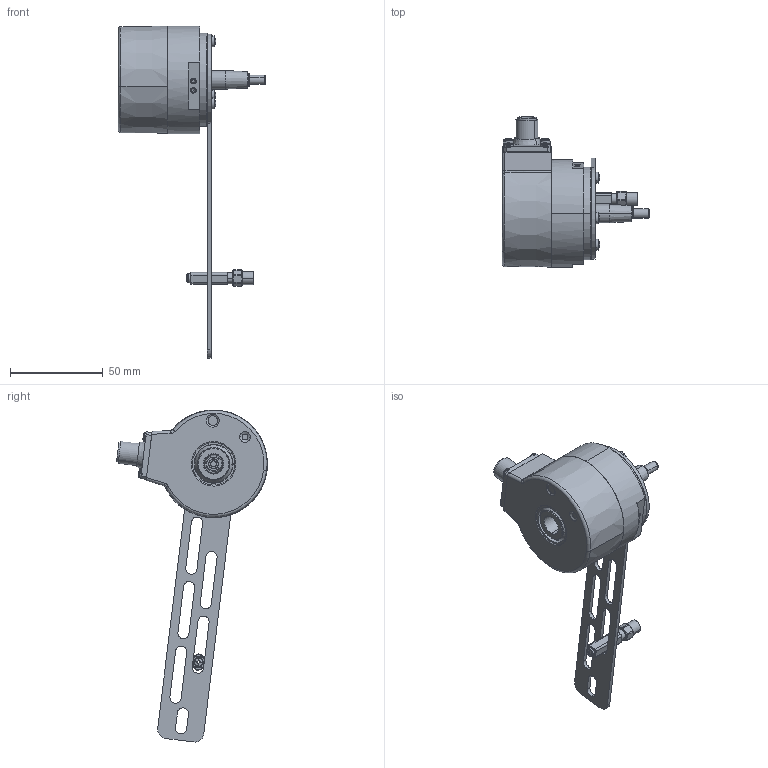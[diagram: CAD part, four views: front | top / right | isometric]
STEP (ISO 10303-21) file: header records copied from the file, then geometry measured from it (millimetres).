
FILE_DESCRIPTION (( 'STEP AP214' ), '1' );
FILE_NAME ('5834SIL.AKX6.XXXX.STEP', '2010-08-13T08:36:45', ( 'admin' ), ( 'Fritz Kübler GmbH' ), 'SwSTEP 2.0', 'SolidWorks 2009', '' );
FILE_SCHEMA (( 'AUTOMOTIVE_DESIGN' ));
Length unit declared in the file: millimetre
Products named in the file (1): 5834SIL.AKX6.XXXX
Bounding box: 79.5 x 81.25 x 178.83 mm (x, y, z)
Surface area: 31240.8 mm2 (no closed solid volume)
Topology: 0 solids, 29 shells, 386 faces, 1056 edges, 694 vertices
Faces by surface type: plane 156, cylinder 120, cone 46, sphere 32, torus 28, bspline 4
Entity records: 16888 total; most frequent: CARTESIAN_POINT 2689, DIRECTION 2299, ORIENTED_EDGE 1830, EDGE_CURVE 1024, AXIS2_PLACEMENT_3D 922, VERTEX_POINT 678, CIRCLE 539, VECTOR 455
